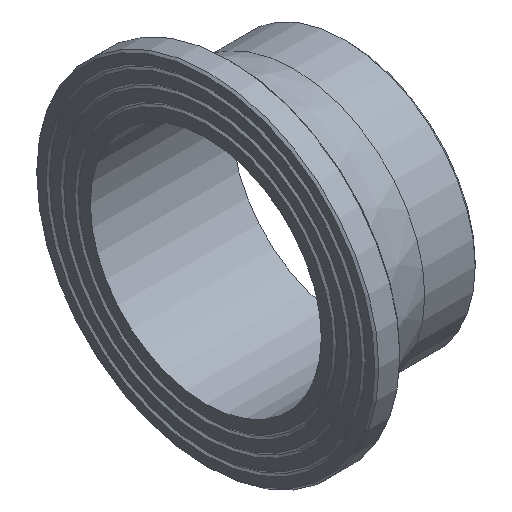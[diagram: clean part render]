
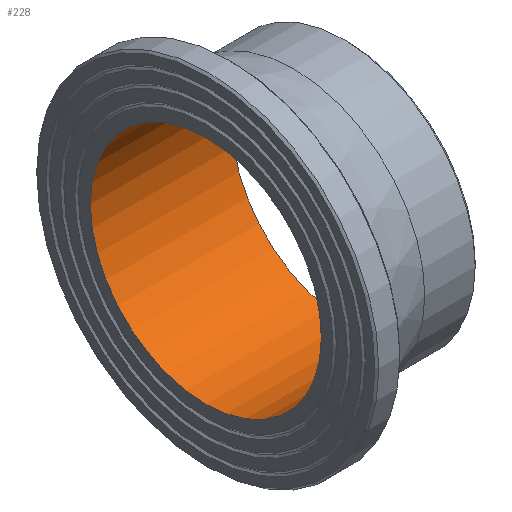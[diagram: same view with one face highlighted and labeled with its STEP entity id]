
A CAD part, isometric view. The second image highlights one B-rep face of the part: STEP entity #228.
In plain terms, the highlighted cylindrical face has radius 88.1 mm (diameter 176.2 mm), a full revolution.
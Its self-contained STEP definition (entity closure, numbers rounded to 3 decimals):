
#33=CYLINDRICAL_SURFACE('',#274,88.1);
#50=ORIENTED_EDGE('',*,*,#79,.F.);
#51=ORIENTED_EDGE('',*,*,#76,.T.);
#76=EDGE_CURVE('',#96,#96,#116,.T.);
#79=EDGE_CURVE('',#99,#99,#119,.T.);
#96=VERTEX_POINT('',#383);
#99=VERTEX_POINT('',#390);
#116=CIRCLE('',#257,88.1);
#119=CIRCLE('',#261,88.1);
#150=EDGE_LOOP('',(#50));
#151=EDGE_LOOP('',(#51));
#190=FACE_BOUND('',#150,.T.);
#191=FACE_BOUND('',#151,.T.);
#228=ADVANCED_FACE('',(#190,#191),#33,.F.);
#257=AXIS2_PLACEMENT_3D('',#382,#303,#304);
#261=AXIS2_PLACEMENT_3D('',#389,#311,#312);
#274=AXIS2_PLACEMENT_3D('',#410,#337,#338);
#303=DIRECTION('',(-1.,0.,0.));
#304=DIRECTION('',(0.,0.,1.));
#311=DIRECTION('',(-1.,0.,0.));
#312=DIRECTION('',(0.,0.,1.));
#337=DIRECTION('',(-1.,0.,0.));
#338=DIRECTION('',(0.,0.,1.));
#382=CARTESIAN_POINT('',(0.,0.,0.));
#383=CARTESIAN_POINT('',(0.,0.,88.1));
#389=CARTESIAN_POINT('',(108.,0.,0.));
#390=CARTESIAN_POINT('',(108.,0.,88.1));
#410=CARTESIAN_POINT('',(60.,0.,0.));
